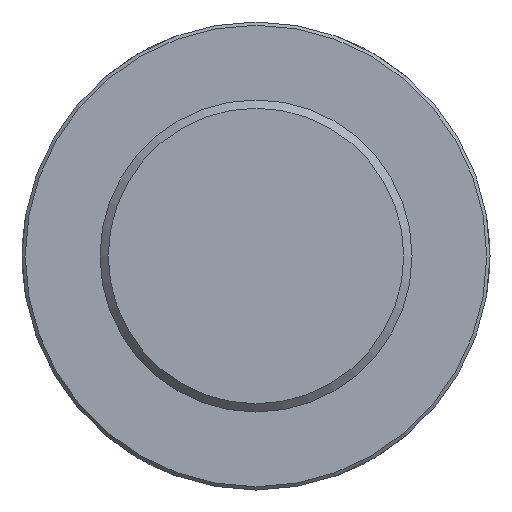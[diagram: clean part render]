
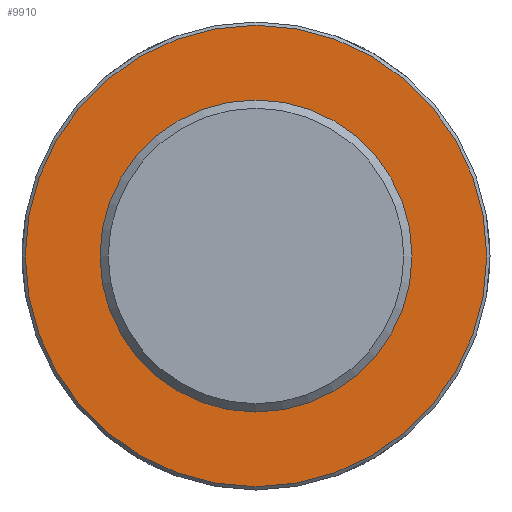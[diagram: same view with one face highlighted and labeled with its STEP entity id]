
A CAD part, front view. The second image highlights one B-rep face of the part: STEP entity #9910.
In plain terms, the highlighted planar face has unit normal (0, -1, 0) as drawn and (0, 1, 0) by its records, which use the part's own axes.
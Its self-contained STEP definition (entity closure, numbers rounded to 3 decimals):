
#73=CIRCLE('',#10219,140.5);
#352=PLANE('',#10222);
#889=FACE_OUTER_BOUND('',#1503,.T.);
#1503=EDGE_LOOP('',(#9020));
#4677=VERTEX_POINT('',#18698);
#6128=EDGE_CURVE('',#4677,#4677,#73,.T.);
#9020=ORIENTED_EDGE('',*,*,#6128,.F.);
#9910=ADVANCED_FACE('',(#889),#352,.T.);
#10219=AXIS2_PLACEMENT_3D('',#18699,#11464,#11465);
#10222=AXIS2_PLACEMENT_3D('',#18937,#11470,#11471);
#11464=DIRECTION('center_axis',(0.,-1.,0.));
#11465=DIRECTION('ref_axis',(1.,0.,0.));
#11470=DIRECTION('center_axis',(0.,1.,0.));
#11471=DIRECTION('ref_axis',(0.,0.,1.));
#18698=CARTESIAN_POINT('',(-140.5,135.,0.));
#18699=CARTESIAN_POINT('Origin',(0.,135.,0.));
#18937=CARTESIAN_POINT('Origin',(0.,135.,0.));
